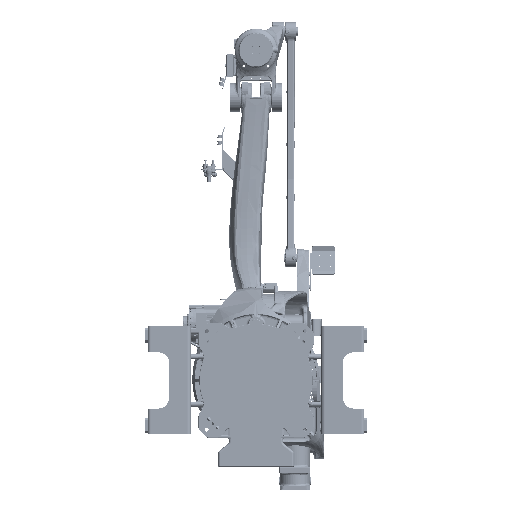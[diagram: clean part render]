
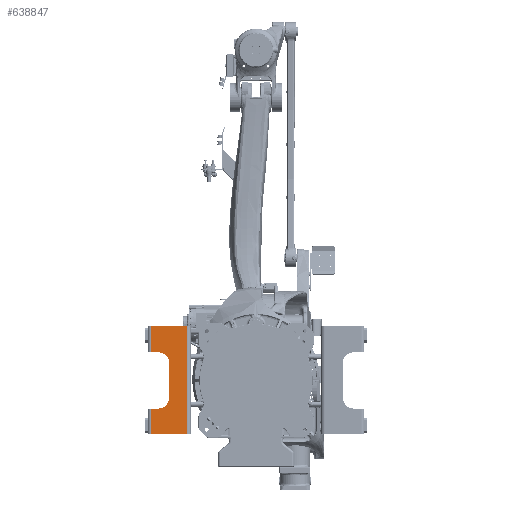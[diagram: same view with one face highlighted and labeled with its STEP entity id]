
A CAD part, front view. The second image highlights one B-rep face of the part: STEP entity #638847.
In plain terms, the highlighted planar face has unit normal (0, -1, 0).
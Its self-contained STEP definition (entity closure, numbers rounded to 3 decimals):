
#1971 = LINE ( 'NONE', #559631, #547626 ) ;
#11249 = EDGE_CURVE ( 'NONE', #299956, #473404, #150518, .T. ) ;
#21594 = DIRECTION ( 'NONE',  ( 0., 0., -1. ) ) ;
#25894 = VECTOR ( 'NONE', #369457, 1000. ) ;
#37935 = CIRCLE ( 'NONE', #274161, 50. ) ;
#38860 = CARTESIAN_POINT ( 'NONE',  ( -402., 282.25, -130. ) ) ;
#40158 = EDGE_CURVE ( 'NONE', #473404, #601320, #163048, .T. ) ;
#46646 = AXIS2_PLACEMENT_3D ( 'NONE', #270749, #645094, #109050 ) ;
#55109 = CARTESIAN_POINT ( 'NONE',  ( -486., 282.25, 250. ) ) ;
#55449 = DIRECTION ( 'NONE',  ( 1., 0., 0. ) ) ;
#57730 = VERTEX_POINT ( 'NONE', #579641 ) ;
#75871 = EDGE_CURVE ( 'NONE', #57730, #297741, #37935, .T. ) ;
#82241 = CARTESIAN_POINT ( 'NONE',  ( -452., 282.25, -80. ) ) ;
#109050 = DIRECTION ( 'NONE',  ( 0., 0., 1. ) ) ;
#116345 = EDGE_CURVE ( 'NONE', #362338, #640638, #1971, .T. ) ;
#117845 = ORIENTED_EDGE ( 'NONE', *, *, #11249, .T. ) ;
#136168 = CARTESIAN_POINT ( 'NONE',  ( -486., 282.25, 250. ) ) ;
#150518 = LINE ( 'NONE', #55109, #25894 ) ;
#152849 = AXIS2_PLACEMENT_3D ( 'NONE', #262992, #632782, #653383 ) ;
#163048 = LINE ( 'NONE', #372088, #634610 ) ;
#174727 = CARTESIAN_POINT ( 'NONE',  ( -452., 282.25, -130. ) ) ;
#175193 = VECTOR ( 'NONE', #392975, 1000. ) ;
#180243 = VECTOR ( 'NONE', #21594, 1000. ) ;
#180656 = EDGE_CURVE ( 'NONE', #601320, #259879, #577484, .T. ) ;
#181551 = EDGE_CURVE ( 'NONE', #230174, #640638, #568879, .T. ) ;
#228210 = ORIENTED_EDGE ( 'NONE', *, *, #40158, .T. ) ;
#230174 = VERTEX_POINT ( 'NONE', #674880 ) ;
#231787 = CARTESIAN_POINT ( 'NONE',  ( -318., 282.25, 250. ) ) ;
#234047 = DIRECTION ( 'NONE',  ( 0., 0., -1. ) ) ;
#247607 = DIRECTION ( 'NONE',  ( 1., 0., 0. ) ) ;
#259879 = VERTEX_POINT ( 'NONE', #407949 ) ;
#260274 = ORIENTED_EDGE ( 'NONE', *, *, #394121, .T. ) ;
#260766 = CARTESIAN_POINT ( 'NONE',  ( -486., 282.25, -130. ) ) ;
#262992 = CARTESIAN_POINT ( 'NONE',  ( -452., 282.25, 80. ) ) ;
#264818 = CARTESIAN_POINT ( 'NONE',  ( -486., 282.25, -250. ) ) ;
#270749 = CARTESIAN_POINT ( 'NONE',  ( -318., 282.25, 250. ) ) ;
#274161 = AXIS2_PLACEMENT_3D ( 'NONE', #82241, #451965, #401139 ) ;
#297741 = VERTEX_POINT ( 'NONE', #174727 ) ;
#298578 = CARTESIAN_POINT ( 'NONE',  ( -486., 282.25, 250. ) ) ;
#299956 = VERTEX_POINT ( 'NONE', #298578 ) ;
#302877 = CARTESIAN_POINT ( 'NONE',  ( -318., 282.25, -250. ) ) ;
#313950 = LINE ( 'NONE', #38860, #330532 ) ;
#315272 = LINE ( 'NONE', #136168, #389574 ) ;
#315328 = CARTESIAN_POINT ( 'NONE',  ( -486., 282.25, 130. ) ) ;
#330532 = VECTOR ( 'NONE', #364605, 1000. ) ;
#362338 = VERTEX_POINT ( 'NONE', #264818 ) ;
#364605 = DIRECTION ( 'NONE',  ( -1., 0., 0. ) ) ;
#366532 = EDGE_LOOP ( 'NONE', ( #228210, #405963, #597523, #521269, #260274, #494333, #665401, #412006, #455405, #117845 ) ) ;
#369457 = DIRECTION ( 'NONE',  ( 0., 0., -1. ) ) ;
#372088 = CARTESIAN_POINT ( 'NONE',  ( -402., 282.25, 130. ) ) ;
#389574 = VECTOR ( 'NONE', #547619, 1000. ) ;
#392975 = DIRECTION ( 'NONE',  ( 1., 0., 0. ) ) ;
#394121 = EDGE_CURVE ( 'NONE', #297741, #467052, #313950, .T. ) ;
#401139 = DIRECTION ( 'NONE',  ( 0., 0., 1. ) ) ;
#405963 = ORIENTED_EDGE ( 'NONE', *, *, #180656, .T. ) ;
#407949 = CARTESIAN_POINT ( 'NONE',  ( -402., 282.25, 80. ) ) ;
#412006 = ORIENTED_EDGE ( 'NONE', *, *, #181551, .F. ) ;
#438226 = VECTOR ( 'NONE', #234047, 1000. ) ;
#451965 = DIRECTION ( 'NONE',  ( 0., 1., 0. ) ) ;
#455405 = ORIENTED_EDGE ( 'NONE', *, *, #546035, .F. ) ;
#467052 = VERTEX_POINT ( 'NONE', #260766 ) ;
#473404 = VERTEX_POINT ( 'NONE', #315328 ) ;
#478787 = PLANE ( 'NONE',  #46646 ) ;
#494333 = ORIENTED_EDGE ( 'NONE', *, *, #631328, .T. ) ;
#494613 = CARTESIAN_POINT ( 'NONE',  ( -318., 282.25, 250. ) ) ;
#504489 = LINE ( 'NONE', #546076, #438226 ) ;
#521269 = ORIENTED_EDGE ( 'NONE', *, *, #75871, .T. ) ;
#532323 = EDGE_CURVE ( 'NONE', #259879, #57730, #504489, .T. ) ;
#546035 = EDGE_CURVE ( 'NONE', #299956, #230174, #613569, .T. ) ;
#546076 = CARTESIAN_POINT ( 'NONE',  ( -402., 282.25, -130. ) ) ;
#547619 = DIRECTION ( 'NONE',  ( 0., 0., -1. ) ) ;
#547626 = VECTOR ( 'NONE', #247607, 1000. ) ;
#559631 = CARTESIAN_POINT ( 'NONE',  ( -318., 282.25, -250. ) ) ;
#568879 = LINE ( 'NONE', #231787, #180243 ) ;
#577484 = CIRCLE ( 'NONE', #152849, 50. ) ;
#579641 = CARTESIAN_POINT ( 'NONE',  ( -402., 282.25, -80. ) ) ;
#597523 = ORIENTED_EDGE ( 'NONE', *, *, #532323, .T. ) ;
#601320 = VERTEX_POINT ( 'NONE', #683226 ) ;
#613569 = LINE ( 'NONE', #494613, #175193 ) ;
#617062 = FACE_OUTER_BOUND ( 'NONE', #366532, .T. ) ;
#631328 = EDGE_CURVE ( 'NONE', #467052, #362338, #315272, .T. ) ;
#632782 = DIRECTION ( 'NONE',  ( 0., 1., 0. ) ) ;
#634610 = VECTOR ( 'NONE', #55449, 1000. ) ;
#638847 = ADVANCED_FACE ( 'NONE', ( #617062 ), #478787, .F. ) ;
#640638 = VERTEX_POINT ( 'NONE', #302877 ) ;
#645094 = DIRECTION ( 'NONE',  ( 0., 1., 0. ) ) ;
#653383 = DIRECTION ( 'NONE',  ( 0., 0., 1. ) ) ;
#665401 = ORIENTED_EDGE ( 'NONE', *, *, #116345, .T. ) ;
#674880 = CARTESIAN_POINT ( 'NONE',  ( -318., 282.25, 250. ) ) ;
#683226 = CARTESIAN_POINT ( 'NONE',  ( -452., 282.25, 130. ) ) ;
